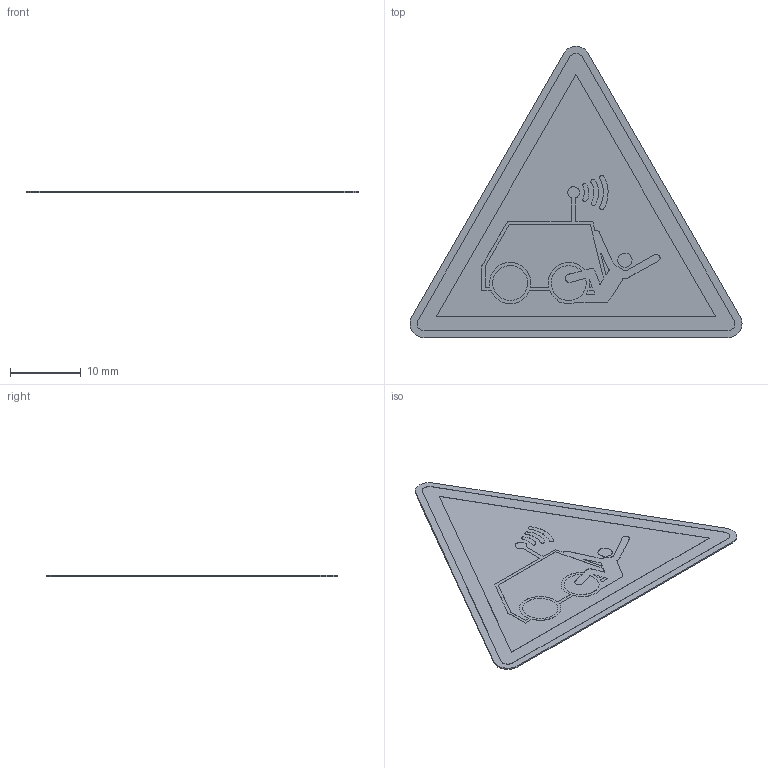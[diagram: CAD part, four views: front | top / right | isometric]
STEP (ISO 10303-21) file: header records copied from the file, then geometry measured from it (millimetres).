
FILE_DESCRIPTION (( 'STEP AP214' ), '1' );
FILE_NAME ('W037_Warnung vor Überrollen durch ferngesteuerte Maschine.STEP', '2022-03-03T14:10:51', ( '' ), ( '' ), 'SwSTEP 2.0', 'SolidWorks 2021', '' );
FILE_SCHEMA (( 'AUTOMOTIVE_DESIGN' ));
Length unit declared in the file: millimetre
Products named in the file (1): W037_Warnung vor Überrollen durch ferngesteuerte Maschine
Bounding box: 47.07 x 41.3 x 0.22 mm (x, y, z)
Volume: 220.8 mm3; surface area: 2184.2 mm2
Topology: 1 solids, 1 shells, 211 faces, 588 edges, 392 vertices
Faces by surface type: plane 136, cylinder 75
Entity records: 8962 total; most frequent: CARTESIAN_POINT 1192, ORIENTED_EDGE 1176, DIRECTION 1162, EDGE_CURVE 588, LINE 438, VECTOR 438, VERTEX_POINT 392, AXIS2_PLACEMENT_3D 362
